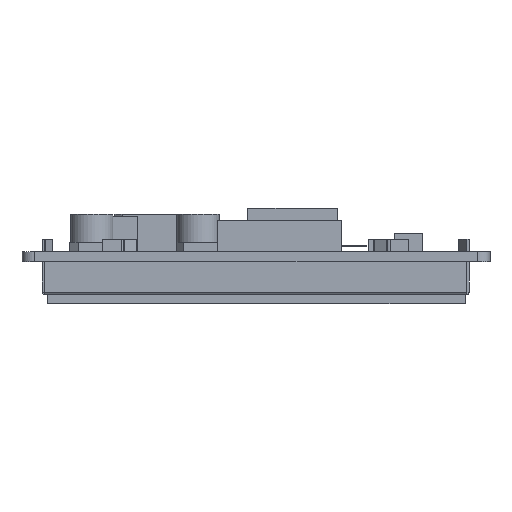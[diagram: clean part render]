
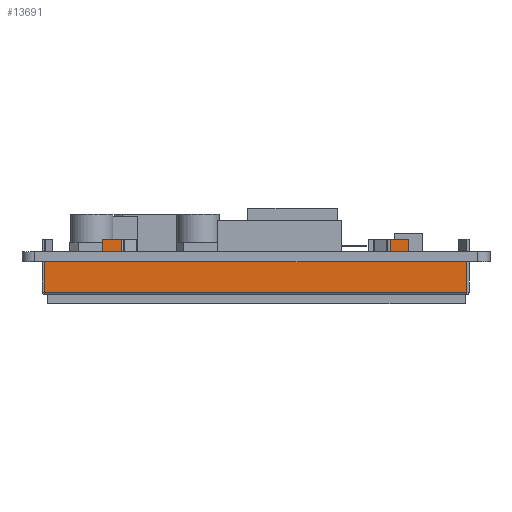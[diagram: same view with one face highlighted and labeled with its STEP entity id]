
A CAD part, left-side view. The second image highlights one B-rep face of the part: STEP entity #13691.
In plain terms, the highlighted planar face has unit normal (-1, 0, 0).
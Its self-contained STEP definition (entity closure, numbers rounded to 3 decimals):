
#5421=LINE('',#48523,#9216);
#5427=LINE('',#48537,#9222);
#5429=LINE('',#48541,#9224);
#5430=LINE('',#48544,#9225);
#5431=LINE('',#48546,#9226);
#5432=LINE('',#48548,#9227);
#5433=LINE('',#48550,#9228);
#5434=LINE('',#48552,#9229);
#5435=LINE('',#48553,#9230);
#5436=LINE('',#48555,#9231);
#5437=LINE('',#48557,#9232);
#5438=LINE('',#48559,#9233);
#5439=LINE('',#48561,#9234);
#5440=LINE('',#48562,#9235);
#5441=LINE('',#48564,#9236);
#5442=LINE('',#48566,#9237);
#9216=VECTOR('',#39752,1.);
#9222=VECTOR('',#39760,1.);
#9224=VECTOR('',#39764,1.);
#9225=VECTOR('',#39765,1.);
#9226=VECTOR('',#39766,1.);
#9227=VECTOR('',#39767,1.);
#9228=VECTOR('',#39768,1.);
#9229=VECTOR('',#39769,1.);
#9230=VECTOR('',#39770,1.);
#9231=VECTOR('',#39771,1.);
#9232=VECTOR('',#39772,1.);
#9233=VECTOR('',#39773,1.);
#9234=VECTOR('',#39774,1.);
#9235=VECTOR('',#39775,1.);
#9236=VECTOR('',#39776,1.);
#9237=VECTOR('',#39777,1.);
#10789=PLANE('',#33019);
#12221=FACE_OUTER_BOUND('',#15496,.T.);
#13691=ADVANCED_FACE('',(#12221),#10789,.F.);
#15496=EDGE_LOOP('',(#23079,#23080,#23081,#23082,#23083,#23084,#23085,#23086,
#23087,#23088,#23089,#23090,#23091,#23092,#23093,#23094));
#23079=ORIENTED_EDGE('',*,*,#30585,.T.);
#23080=ORIENTED_EDGE('',*,*,#30586,.F.);
#23081=ORIENTED_EDGE('',*,*,#30587,.F.);
#23082=ORIENTED_EDGE('',*,*,#30588,.T.);
#23083=ORIENTED_EDGE('',*,*,#30589,.T.);
#23084=ORIENTED_EDGE('',*,*,#30590,.T.);
#23085=ORIENTED_EDGE('',*,*,#30583,.T.);
#23086=ORIENTED_EDGE('',*,*,#30591,.F.);
#23087=ORIENTED_EDGE('',*,*,#30592,.T.);
#23088=ORIENTED_EDGE('',*,*,#30593,.F.);
#23089=ORIENTED_EDGE('',*,*,#30594,.F.);
#23090=ORIENTED_EDGE('',*,*,#30595,.T.);
#23091=ORIENTED_EDGE('',*,*,#30577,.T.);
#23092=ORIENTED_EDGE('',*,*,#30596,.F.);
#23093=ORIENTED_EDGE('',*,*,#30597,.F.);
#23094=ORIENTED_EDGE('',*,*,#30598,.T.);
#26549=VERTEX_POINT('',#48524);
#26550=VERTEX_POINT('',#48525);
#26555=VERTEX_POINT('',#48536);
#26556=VERTEX_POINT('',#48538);
#26557=VERTEX_POINT('',#48542);
#26558=VERTEX_POINT('',#48543);
#26559=VERTEX_POINT('',#48545);
#26560=VERTEX_POINT('',#48547);
#26561=VERTEX_POINT('',#48549);
#26562=VERTEX_POINT('',#48551);
#26563=VERTEX_POINT('',#48554);
#26564=VERTEX_POINT('',#48556);
#26565=VERTEX_POINT('',#48558);
#26566=VERTEX_POINT('',#48560);
#26567=VERTEX_POINT('',#48563);
#26568=VERTEX_POINT('',#48565);
#30577=EDGE_CURVE('',#26549,#26550,#5421,.T.);
#30583=EDGE_CURVE('',#26556,#26555,#5427,.T.);
#30585=EDGE_CURVE('',#26557,#26558,#5429,.T.);
#30586=EDGE_CURVE('',#26559,#26558,#5430,.T.);
#30587=EDGE_CURVE('',#26560,#26559,#5431,.T.);
#30588=EDGE_CURVE('',#26560,#26561,#5432,.T.);
#30589=EDGE_CURVE('',#26561,#26562,#5433,.T.);
#30590=EDGE_CURVE('',#26562,#26556,#5434,.T.);
#30591=EDGE_CURVE('',#26563,#26555,#5435,.T.);
#30592=EDGE_CURVE('',#26563,#26564,#5436,.T.);
#30593=EDGE_CURVE('',#26565,#26564,#5437,.T.);
#30594=EDGE_CURVE('',#26566,#26565,#5438,.T.);
#30595=EDGE_CURVE('',#26566,#26549,#5439,.T.);
#30596=EDGE_CURVE('',#26567,#26550,#5440,.T.);
#30597=EDGE_CURVE('',#26568,#26567,#5441,.T.);
#30598=EDGE_CURVE('',#26568,#26557,#5442,.T.);
#33019=AXIS2_PLACEMENT_3D('',#48567,#39778,#39779);
#39752=DIRECTION('',(0.,1.,0.));
#39760=DIRECTION('',(0.,1.,0.));
#39764=DIRECTION('',(0.,1.,0.));
#39765=DIRECTION('',(0.,0.,-1.));
#39766=DIRECTION('',(0.,-1.,0.));
#39767=DIRECTION('',(0.,0.,-1.));
#39768=DIRECTION('',(0.,1.,0.));
#39769=DIRECTION('',(0.,0.,-1.));
#39770=DIRECTION('',(0.,0.,-1.));
#39771=DIRECTION('',(0.,-1.,0.));
#39772=DIRECTION('',(0.,0.,-1.));
#39773=DIRECTION('',(0.,-1.,0.));
#39774=DIRECTION('',(0.,0.,-1.));
#39775=DIRECTION('',(0.,0.,1.));
#39776=DIRECTION('',(0.,1.,0.));
#39777=DIRECTION('',(0.,0.,1.));
#39778=DIRECTION('',(1.,0.,0.));
#39779=DIRECTION('',(0.,1.,0.));
#48523=CARTESIAN_POINT('',(67.65,-14.395,-1.6));
#48524=CARTESIAN_POINT('',(67.65,43.765,-1.6));
#48525=CARTESIAN_POINT('',(67.65,53.005,-1.6));
#48536=CARTESIAN_POINT('',(67.65,40.765,-1.6));
#48537=CARTESIAN_POINT('',(67.65,-14.395,-1.6));
#48538=CARTESIAN_POINT('',(67.65,-2.155,-1.6));
#48541=CARTESIAN_POINT('',(67.65,-14.395,-1.6));
#48542=CARTESIAN_POINT('',(67.65,-14.395,-1.6));
#48543=CARTESIAN_POINT('',(67.65,-5.155,-1.6));
#48544=CARTESIAN_POINT('',(67.65,-5.155,0.));
#48545=CARTESIAN_POINT('',(67.65,-5.155,2.));
#48546=CARTESIAN_POINT('',(67.65,-2.19,2.));
#48547=CARTESIAN_POINT('',(67.65,-2.19,2.));
#48548=CARTESIAN_POINT('',(67.65,-2.19,2.));
#48549=CARTESIAN_POINT('',(67.65,-2.19,0.));
#48550=CARTESIAN_POINT('',(67.65,-5.155,0.));
#48551=CARTESIAN_POINT('',(67.65,-2.155,0.));
#48552=CARTESIAN_POINT('',(67.65,-2.155,0.));
#48553=CARTESIAN_POINT('',(67.65,40.765,0.));
#48554=CARTESIAN_POINT('',(67.65,40.765,0.));
#48555=CARTESIAN_POINT('',(67.65,43.765,0.));
#48556=CARTESIAN_POINT('',(67.65,40.754,0.));
#48557=CARTESIAN_POINT('',(67.65,40.754,2.));
#48558=CARTESIAN_POINT('',(67.65,40.754,2.));
#48559=CARTESIAN_POINT('',(67.65,43.765,2.));
#48560=CARTESIAN_POINT('',(67.65,43.765,2.));
#48561=CARTESIAN_POINT('',(67.65,43.765,0.));
#48562=CARTESIAN_POINT('',(67.65,53.005,-6.4));
#48563=CARTESIAN_POINT('',(67.65,53.005,-6.4));
#48564=CARTESIAN_POINT('',(67.65,-14.395,-6.4));
#48565=CARTESIAN_POINT('',(67.65,-14.395,-6.4));
#48566=CARTESIAN_POINT('',(67.65,-14.395,-6.4));
#48567=CARTESIAN_POINT('',(67.65,-14.395,-6.4));
